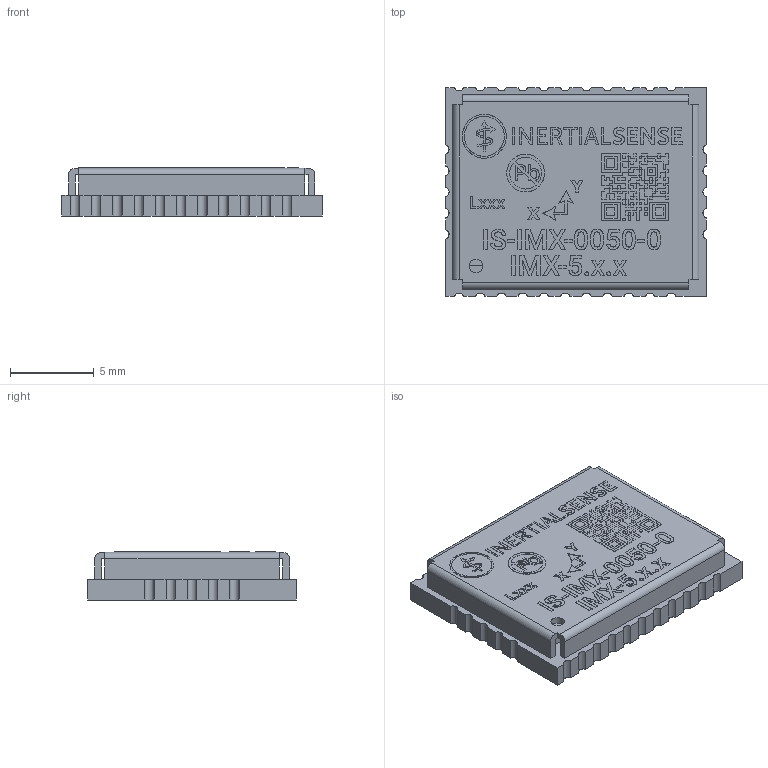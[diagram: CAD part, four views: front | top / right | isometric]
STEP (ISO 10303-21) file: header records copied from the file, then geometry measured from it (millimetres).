
FILE_DESCRIPTION(('Open CASCADE Model'),'2;1');
FILE_NAME('Open CASCADE Shape Model','2023-01-06T17:32:26',('Author'),( 'Open CASCADE'),'Open CASCADE STEP processor 7.5','Open CASCADE 7.5' ,'Unknown');
FILE_SCHEMA(('AUTOMOTIVE_DESIGN { 1 0 10303 214 1 1 1 1 }'));
Length unit declared in the file: millimetre
Products named in the file (73): PCB; Board; Open CASCADE STEP translator 7.5 7.1.1; SHLD1; IMX-5 CAN; Shell; H1; 6398277280; 6398277440; Extruded; 6398277600; 6398277760; 6398277920; 6398278080; 6398278240; 6274910816; 6274910016; 6274906976; 6274909216; 6274910176; 6360726208; 6360726368; 6360726528; U9; 6307863232; Open CASCADE STEP translator 6.8 42.1; Body; Open CASCADE STEP translator 6.8 42.2.1; Pin_Shape; U8; 6307863552; U3; ST_BGA64(WLCSP64); U2; U6; 6148403856; U7; 6307863632; Y1; ECS_ECS-TXO-2016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
Assembly tree (156 placements, depth 5):
  PCB
    Board
      Open CASCADE STEP translator 7.5 7.1.1
    SHLD1
      IMX-5 CAN
        Shell
    H1
      6398277280
      6398277440
        Extruded
      6398277600
        Extruded
      6398277760
        Extruded
      6398277920
        Extruded
      6398278080
        Extruded
      6398278240
        Extruded
      6274910816  x11
        Extruded
      6274910016  x5
        Extruded
      6274906976  x4
        Extruded
      6274909216  x11
        Extruded
      6274910176  x5
        Extruded
      6360726208
        Extruded
      6360726368
        Extruded
      6360726528
        Extruded
    U9
      6307863232
        Open CASCADE STEP translator 6.8 42.1
        Body
          Open CASCADE STEP translator 6.8 42.2.1
        Pin_Shape  x14
    U8
      6307863552
        Open CASCADE STEP translator 6.8 42.1
        Body
          Open CASCADE STEP translator 6.8 42.2.1
        Pin_Shape  x14
    U3
      ST_BGA64(WLCSP64)
    U2
      6307863232
        Open CASCADE STEP translator 6.8 42.1
        Body
          Open CASCADE STEP translator 6.8 42.2.1
        Pin_Shape  x14
    U6
      6148403856
        Open CASCADE STEP translator 6.8 42.1
        Body
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Bounding box: 15.6 x 12.5 x 2.88 mm (x, y, z)
Volume: 376.8 mm3; surface area: 1256.5 mm2
Topology: 210 solids, 215 shells, 2917 faces, 7614 edges, 5021 vertices
Faces by surface type: plane 2164, bspline 485, sphere 164, cylinder 96, torus 8
Full cylindrical faces by diameter (mm): 0.388 x5, 0.8 x1
Entity records: 73764 total; most frequent: CARTESIAN_POINT 18344, ORIENTED_EDGE 11420, DIRECTION 8670, EDGE_CURVE 5712, LINE 4118, VECTOR 4118, VERTEX_POINT 3862, AXIS2_PLACEMENT_3D 2276
